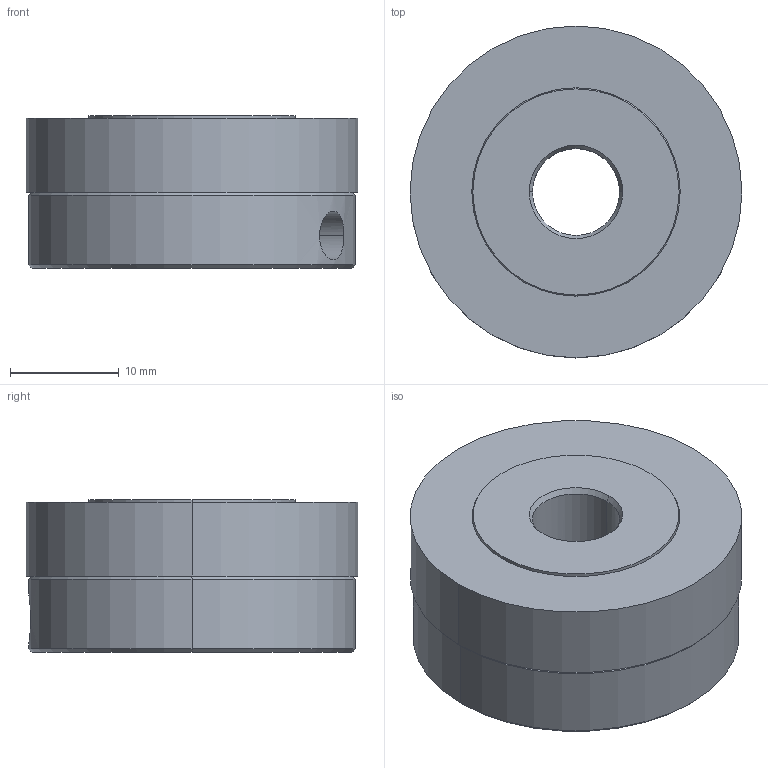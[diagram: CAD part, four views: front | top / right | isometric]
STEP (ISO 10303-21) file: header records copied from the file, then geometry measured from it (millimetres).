
FILE_DESCRIPTION(('STEP AP214'),'1');
FILE_NAME('11706601-a.stp','2023-07-18T07:32:01',(' '),(' '),'Spatial InterOp 3D',' ',' ');
FILE_SCHEMA(('automotive_design'));
Length unit declared in the file: millimetre
Products named in the file (1): 1
Bounding box: 30.5 x 30.5 x 14 mm (x, y, z)
Volume: 9009.6 mm3; surface area: 3990.2 mm2
Topology: 1 solids, 2 shells, 79 faces, 187 edges, 113 vertices
Faces by surface type: cone 28, cylinder 26, plane 21, torus 4
Entity records: 2900 total; most frequent: CARTESIAN_POINT 462, DIRECTION 388, ORIENTED_EDGE 358, EDGE_CURVE 179, AXIS2_PLACEMENT_3D 155, VERTEX_POINT 113, EDGE_LOOP 92, STYLED_ITEM 80
